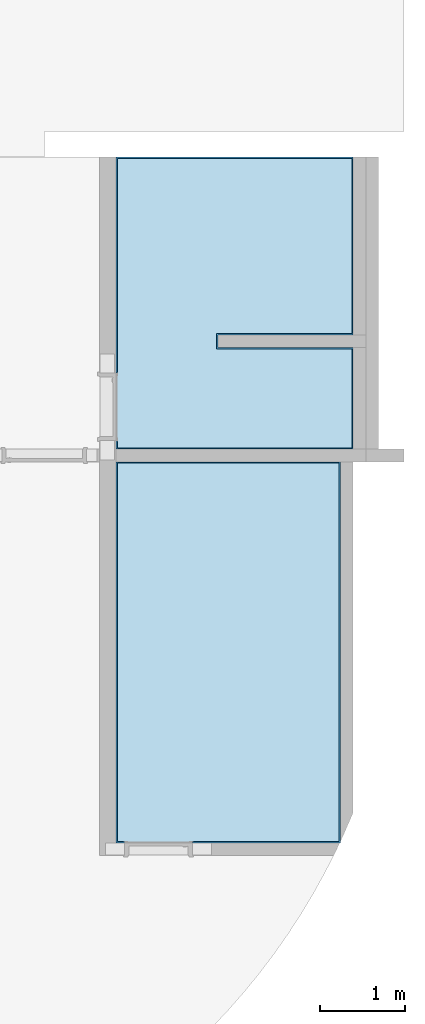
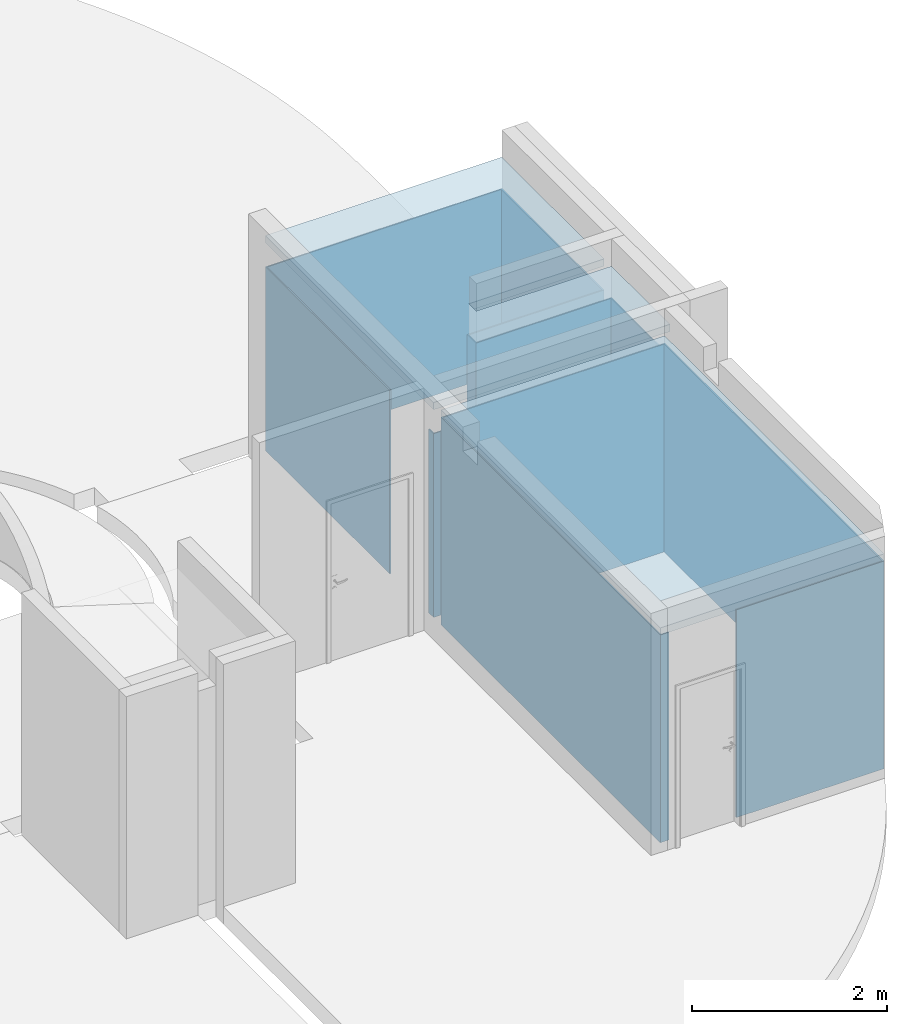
# One storey, part 9 of 21: 4 slabs.
"""IFC4 building model written with IfcOpenShell, lengths in millimetres."""

from ifc_helpers import new_model, entity, si_unit, converted_unit, derived_unit, direction, frame, origin_with_axes, place, context, subcontext, project, spatial, polygons, material, constituent, constituent_set, type_object, element, save


model = new_model("IFC4")

# Units and contexts
model_context = context("Model", 3, precision=0.01, world=origin_with_axes(), true_north=direction((0.0, 1.0)))
body_context = subcontext(model_context, "Body", "Model", "MODEL_VIEW")
ifc_project = project(units=[si_unit("LENGTHUNIT", "METRE", prefix="MILLI"), si_unit("AREAUNIT", "SQUARE_METRE"), si_unit("VOLUMEUNIT", "CUBIC_METRE"), converted_unit("PLANEANGLEUNIT", "DEGREE", entity("IfcPlaneAngleMeasure", 0.0174532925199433), si_unit("PLANEANGLEUNIT", "RADIAN"), dimensions=[0, 0, 0, 0, 0, 0, 0]), converted_unit("TIMEUNIT", "Year", entity("IfcTimeMeasure", 31557600.0), si_unit("TIMEUNIT", "SECOND"), dimensions=[0, 0, 1, 0, 0, 0, 0]), si_unit("MASSUNIT", "GRAM", prefix="KILO"), si_unit("THERMODYNAMICTEMPERATUREUNIT", "DEGREE_CELSIUS"), si_unit("LUMINOUSINTENSITYUNIT", "LUMEN"), si_unit("ENERGYUNIT", "JOULE", prefix="MEGA"), derived_unit("THERMALCONDUCTANCEUNIT", [(si_unit("POWERUNIT", "WATT"), 1), (si_unit("LENGTHUNIT", "METRE"), -1), (si_unit("THERMODYNAMICTEMPERATUREUNIT", "KELVIN"), -1)]), derived_unit("SPECIFICHEATCAPACITYUNIT", [(si_unit("ENERGYUNIT", "JOULE"), 1), (si_unit("MASSUNIT", "GRAM", prefix="KILO"), -1), (si_unit("THERMODYNAMICTEMPERATUREUNIT", "KELVIN"), -1)]), derived_unit("MASSDENSITYUNIT", [(si_unit("MASSUNIT", "GRAM", prefix="KILO"), 1), (si_unit("VOLUMEUNIT", "CUBIC_METRE"), -1)])], contexts=[model_context])

# Site, building, storey
site_placement = place(None, origin_with_axes())
site = spatial("IfcSite", under=ifc_project, at=site_placement, Name="Exteriér", CompositionType="ELEMENT")
building_placement = place(site_placement, origin_with_axes())
building = spatial("IfcBuilding", under=site, at=building_placement, Name="Univerzitní lezecké centrum", CompositionType="ELEMENT")
storey_placement = place(building_placement, frame((0.0, 0.0, -3350.0), z_axis=(0.0, 0.0, 1.0), x_axis=(1.0, 0.0, 0.0)))
storey = spatial("IfcBuildingStorey", under=building, at=storey_placement, Name="1.PP", CompositionType="ELEMENT", Elevation=-3350.0)

# Slabs
ifc_material_1 = material(Name="Keramická dlažba 20x40 - obklad")
slab_type_1 = type_object("IfcSlabType", Name="Keramická dlažba 20x40 - obklad 2300", PredefinedType="FLOOR")
slab_1_placement = place(storey_placement, frame((9849.694468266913, 949.5770778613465, 2300.0), z_axis=(0.0, 0.0, 1.0), x_axis=(1.0, 0.0, 0.0)))
element("IfcSlab", 1, at=slab_1_placement, inside=storey, type_object=slab_type_1, material=ifc_material_1, PredefinedType="FLOOR", context=body_context, shape_type="Tessellation", body=[
    polygons([(0.0, 0.0, 0.0), (0.0, 0.0, -2300.0), (0.06858181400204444, 1199.984552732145, -2300.0), (0.06858181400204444, 1199.984552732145, 0.0), (-2799.739487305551, 0.1600114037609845, 0.0), (-2799.739487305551, 0.1600114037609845, -2300.0), (-2799.733772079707, 100.1600307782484, -2300.0), (-2784.733740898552, 100.1591734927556, -2300.0), (-2784.738598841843, 15.15913389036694, -2300.0), (-2724.738628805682, 15.14763353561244, -2300.0), (-15.17201160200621, 14.99277571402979, -2300.0), (-15.10514389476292, 1184.985388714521, -2300.0), (-1614.909071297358, 1185.07682110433, -2300.0), (-1614.898783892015, 1365.076835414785, -2300.0), (-15.09480508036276, 1364.985403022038, -2300.0), (-14.97650034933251, 3434.978036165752, -2300.0), (-2784.773092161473, 3435.136336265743, -2300.0), (-2784.917971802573, 900.1591874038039, -2300.0), (-2799.687998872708, 900.1600315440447, -2300.0), (-2799.542260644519, 3450.159985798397, -2300.0), (0.1971752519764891, 3449.999974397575, -2300.0), (0.0771546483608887, 1349.984504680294, -2300.0), (-1599.899661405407, 1350.075946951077, -2300.0), (-1599.908234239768, 1200.075995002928, -2300.0), (-1599.908234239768, 1200.075995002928, 0.0), (-1599.899661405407, 1350.075946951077, 0.0), (0.0771546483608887, 1349.984504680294, 0.0), (0.1971752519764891, 3449.999974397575, 0.0), (-2799.542260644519, 3450.159985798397, 0.0), (-2799.687998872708, 900.1600315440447, 0.0), (-2784.917971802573, 900.1591874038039, 0.0), (-2784.773092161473, 3435.136336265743, 0.0), (-14.97650034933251, 3434.978036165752, 0.0), (-15.09480508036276, 1364.985403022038, 0.0), (-1614.898783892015, 1365.076835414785, 0.0), (-1614.909071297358, 1185.07682110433, 0.0), (-15.10514389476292, 1184.985388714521, 0.0), (-15.17201160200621, 14.99277571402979, 0.0), (-2724.738628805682, 15.14763353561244, 0.0), (-2784.738598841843, 15.15913389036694, 0.0), (-2784.733740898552, 100.1591734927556, 0.0), (-2799.733772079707, 100.1600307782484, 0.0)], [[[1, 2, 3, 4]], [[5, 6, 2, 1]], [[3, 2, 6, 7, 8, 9, 10, 11, 12, 13, 14, 15, 16, 17, 18, 19, 20, 21, 22, 23, 24]], [[4, 3, 24, 25]], [[1, 4, 25, 26, 27, 28, 29, 30, 31, 32, 33, 34, 35, 36, 37, 38, 39, 40, 41, 42, 5]], [[42, 7, 6, 5]], [[41, 8, 7, 42]], [[40, 9, 8, 41]], [[39, 10, 9, 40]], [[38, 11, 10, 39]], [[37, 12, 11, 38]], [[36, 13, 12, 37]], [[35, 14, 13, 36]], [[34, 15, 14, 35]], [[33, 16, 15, 34]], [[32, 17, 16, 33]], [[31, 18, 17, 32]], [[30, 19, 18, 31]], [[29, 20, 19, 30]], [[28, 21, 20, 29]], [[27, 22, 21, 28]], [[26, 23, 22, 27]], [[25, 24, 23, 26]]], closed=True),
])
ifc_material_2 = material(Name="SDK - UA profil nosný 50")
ifc_constituent_1 = constituent(ifc_material_2, Name="SDK - UA profil nosný 50")
ifc_material_3 = material(Name="SDK - R-CD profil montážní")
ifc_constituent_2 = constituent(ifc_material_3, Name="SDK - R-CD profil montážní")
ifc_material_4 = material(Name="Sádrokarton - voděodolný")
ifc_constituent_3 = constituent(ifc_material_4, Name="Sádrokarton - voděodolný")
ifc_constituent_set_1 = constituent_set(constituents=[ifc_constituent_1, ifc_constituent_2, ifc_constituent_3], Name="!SDK - hygienický")
slab_type_2 = type_object("IfcSlabType", Name="!SDK - hygienický 90", PredefinedType="FLOOR")
slab_2_placement = place(storey_placement, frame((9849.851644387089, 4399.99999999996, 2690.0), z_axis=(0.0, 0.0, 1.0), x_axis=(1.0, 0.0, 0.0)))
element("IfcSlab", 2, at=slab_2_placement, inside=storey, type_object=slab_type_2, material=ifc_constituent_set_1, Name="Pdh01", PredefinedType="FLOOR", context=body_context, shape_type="Tessellation", body=[
    polygons([(-1597.101597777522, -2100.015008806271, 0.0), (0.0, -2099.768147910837, 0.0), (0.0, 0.0, 0.0), (-2799.739456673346, 0.0, 0.0), (-2799.739456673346, -3450.000000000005, 0.0), (0.0, -3450.000000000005, 0.0), (0.0, -2250.015438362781, 0.0), (-1599.976789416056, -2250.01545501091, 0.0), (-1599.999974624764, -2100.015456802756, 0.0), (-1599.976776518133, -2100.01545321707, 0.0), (-1599.976776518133, -2099.744970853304, 0.0), (0.0, -2099.768147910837, -50.00000000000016), (-1597.101597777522, -2100.015008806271, -50.00000000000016), (0.0, 0.0, -50.00000000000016), (-2799.739456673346, 0.0, -50.00000000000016), (-2799.739456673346, -3450.000000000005, -50.00000000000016), (0.0, -3450.000000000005, -50.00000000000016), (0.0, -2250.015438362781, -50.00000000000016), (-1599.976789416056, -2250.01545501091, -50.00000000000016), (-1599.999974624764, -2100.015456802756, -49.99999999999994), (-1599.976776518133, -2100.01545321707, -50.00000000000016), (-1599.976776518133, -2099.744970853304, -50.00000000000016)], [[[1, 2, 3, 4, 5, 6, 7, 8, 9, 10, 11]], [[12, 2, 1, 13]], [[2, 12, 14, 3]], [[14, 15, 4, 3]], [[15, 16, 5, 4]], [[16, 17, 6, 5]], [[17, 18, 7, 6]], [[19, 8, 7, 18]], [[9, 8, 19, 20]], [[21, 10, 9, 20]], [[10, 21, 22, 11]], [[13, 1, 11, 22]], [[12, 13, 22, 21, 20, 19, 18, 17, 16, 15, 14]]], closed=True),
    polygons([(0.0, -2249.768149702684, -50.00000000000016), (0.0, -2249.768149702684, 0.0), (0.0, -2250.015438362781, 0.0), (0.0, -2250.015438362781, -50.00000000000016), (-2.628633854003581, -2249.768556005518, 0.0), (-2.628633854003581, -2249.768556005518, -50.00000000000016)], [[[1, 2, 3, 4]], [[5, 2, 1, 6]], [[2, 5, 3]], [[5, 6, 4, 3]], [[6, 1, 4]]], closed=True),
    polygons([(-1597.101597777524, -2100.015008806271, -50.00000000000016), (0.0, -2099.768147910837, -50.00000000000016), (0.0, 0.0, -50.00000000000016), (-2799.739456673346, 0.0, -50.00000000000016), (-2799.739456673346, -3450.000000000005, -50.00000000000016), (0.0, -3450.000000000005, -50.00000000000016), (0.0, -2250.015438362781, -50.00000000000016), (-1599.976789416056, -2250.01545501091, -50.00000000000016), (-1599.999974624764, -2100.015456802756, -49.99999999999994), (-1599.976776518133, -2100.01545321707, -50.00000000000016), (-1599.976776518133, -2099.744970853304, -50.00000000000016), (0.0, -2099.768147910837, -77.00000000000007), (-1597.101597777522, -2100.015008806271, -77.00000000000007), (0.0, 0.0, -77.00000000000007), (-2799.739456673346, 0.0, -77.00000000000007), (-2799.739456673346, -3450.000000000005, -77.00000000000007), (0.0, -3450.000000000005, -77.00000000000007), (0.0, -2250.015438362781, -77.00000000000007), (-1599.976789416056, -2250.01545501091, -77.00000000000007), (-1599.999974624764, -2100.015456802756, -77.00000000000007), (-1599.976776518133, -2100.01545321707, -77.00000000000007), (-1599.976776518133, -2099.744970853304, -77.00000000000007)], [[[1, 2, 3, 4, 5, 6, 7, 8, 9, 10, 11]], [[12, 2, 1, 13]], [[2, 12, 14, 3]], [[14, 15, 4, 3]], [[15, 16, 5, 4]], [[16, 17, 6, 5]], [[17, 18, 7, 6]], [[19, 8, 7, 18]], [[9, 8, 19, 20]], [[21, 10, 9, 20]], [[10, 21, 22, 11]], [[13, 1, 11, 22]], [[12, 13, 22, 21, 20, 19, 18, 17, 16, 15, 14]]], closed=True),
    polygons([(0.0, -2249.768149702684, -77.00000000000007), (0.0, -2249.768149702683, -50.00000000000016), (0.0, -2250.015438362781, -50.00000000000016), (0.0, -2250.015438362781, -77.00000000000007), (-2.628633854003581, -2249.768556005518, -50.00000000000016), (-2.628633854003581, -2249.768556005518, -77.00000000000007)], [[[1, 2, 3, 4]], [[5, 2, 1, 6]], [[2, 5, 3]], [[5, 6, 4, 3]], [[6, 1, 4]]], closed=True),
    polygons([(-1597.101597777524, -2100.015008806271, -77.00000000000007), (0.0, -2099.768147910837, -77.00000000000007), (0.0, 0.0, -77.00000000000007), (-2799.739456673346, 0.0, -77.00000000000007), (-2799.739456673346, -3450.000000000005, -77.00000000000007), (0.0, -3450.000000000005, -77.00000000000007), (0.0, -2250.015438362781, -77.00000000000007), (-1599.976789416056, -2250.01545501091, -77.00000000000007), (-1599.999974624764, -2100.015456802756, -77.00000000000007), (-1599.976776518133, -2100.01545321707, -77.00000000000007), (-1599.976776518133, -2099.744970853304, -77.00000000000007), (0.0, -2099.768147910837, -89.99999999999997), (-1597.101597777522, -2100.015008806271, -89.99999999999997), (0.0, 0.0, -89.99999999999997), (-2799.739456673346, 0.0, -89.99999999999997), (-2799.739456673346, -3450.000000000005, -89.99999999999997), (0.0, -3450.000000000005, -89.99999999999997), (0.0, -2250.015438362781, -89.99999999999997), (-1599.976789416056, -2250.01545501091, -89.99999999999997), (-1599.999974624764, -2100.015456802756, -89.99999999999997), (-1599.976776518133, -2100.01545321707, -89.99999999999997), (-1599.976776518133, -2099.744970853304, -89.99999999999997)], [[[1, 2, 3, 4, 5, 6, 7, 8, 9, 10, 11]], [[12, 2, 1, 13]], [[2, 12, 14, 3]], [[3, 14, 15, 4]], [[4, 15, 16, 5]], [[5, 16, 17, 6]], [[6, 17, 18, 7]], [[19, 8, 7, 18]], [[9, 8, 19, 20]], [[21, 10, 9, 20]], [[10, 21, 22, 11]], [[13, 1, 11, 22]], [[12, 13, 22, 21, 20, 19, 18, 17, 16, 15, 14]]], closed=True),
    polygons([(0.0, -2249.768149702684, -89.99999999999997), (0.0, -2249.768149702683, -77.00000000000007), (0.0, -2250.015438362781, -77.00000000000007), (0.0, -2250.015438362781, -89.99999999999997), (-2.628633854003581, -2249.768556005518, -77.00000000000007), (-2.628633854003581, -2249.768556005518, -89.99999999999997)], [[[1, 2, 3, 4]], [[5, 2, 1, 6]], [[2, 5, 3]], [[5, 6, 4, 3]], [[6, 1, 4]]], closed=True),
])
ifc_constituent_4 = constituent(ifc_material_2, Name="SDK - UA profil nosný 50")
ifc_constituent_5 = constituent(ifc_material_3, Name="SDK - R-CD profil montážní")
ifc_constituent_6 = constituent(ifc_material_4, Name="Sádrokarton - voděodolný")
ifc_constituent_set_2 = constituent_set(constituents=[ifc_constituent_4, ifc_constituent_5, ifc_constituent_6], Name="!SDK - hygienický")
slab_3_placement = place(storey_placement, frame((9699.851648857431, -3700.000000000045, 2690.0), z_axis=(0.0, 0.0, 1.0), x_axis=(1.0, 0.0, 0.0)))
element("IfcSlab", 3, at=slab_3_placement, inside=storey, type_object=slab_type_2, material=ifc_constituent_set_2, Name="Pdh01", PredefinedType="FLOOR", context=body_context, shape_type="Tessellation", body=[
    polygons([(-8.352607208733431, 0.0, 0.0), (0.0, 17.57176482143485, 0.0), (0.0, 4500.0, 0.0), (-2649.739482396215, 4500.000000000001, 0.0), (-2649.739482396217, 0.0, 0.0), (0.0, 17.57176482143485, -50.00000000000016), (-8.352607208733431, 0.0, -50.00000000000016), (0.0, 4500.0, -50.00000000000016), (-2649.739482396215, 4500.000000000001, -50.00000000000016), (-2649.739482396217, 0.0, -50.00000000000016)], [[[1, 2, 3, 4, 5]], [[6, 2, 1, 7]], [[2, 6, 8, 3]], [[8, 9, 4, 3]], [[9, 10, 5, 4]], [[7, 1, 5, 10]], [[6, 7, 10, 9, 8]]], closed=True),
    polygons([(-8.352607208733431, 0.0, -50.00000000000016), (0.0, 17.57176482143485, -50.00000000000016), (0.0, 4500.0, -50.00000000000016), (-2649.739482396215, 4500.000000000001, -50.00000000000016), (-2649.739482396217, 0.0, -50.00000000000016), (0.0, 17.57176482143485, -77.00000000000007), (-8.352607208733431, 0.0, -77.00000000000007), (0.0, 4500.0, -77.00000000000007), (-2649.739482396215, 4500.000000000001, -77.00000000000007), (-2649.739482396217, 0.0, -77.00000000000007)], [[[1, 2, 3, 4, 5]], [[6, 2, 1, 7]], [[2, 6, 8, 3]], [[8, 9, 4, 3]], [[9, 10, 5, 4]], [[7, 1, 5, 10]], [[6, 7, 10, 9, 8]]], closed=True),
    polygons([(-8.352607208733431, 0.0, -77.00000000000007), (0.0, 17.57176482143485, -77.00000000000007), (0.0, 4500.0, -77.00000000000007), (-2649.739482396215, 4500.000000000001, -77.00000000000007), (-2649.739482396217, 0.0, -77.00000000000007), (0.0, 17.57176482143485, -89.99999999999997), (-8.352607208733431, 0.0, -89.99999999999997), (0.0, 4500.0, -89.99999999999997), (-2649.739482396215, 4500.000000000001, -89.99999999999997), (-2649.739482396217, 0.0, -89.99999999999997)], [[[1, 2, 3, 4, 5]], [[6, 2, 1, 7]], [[2, 6, 8, 3]], [[3, 8, 9, 4]], [[4, 9, 10, 5]], [[7, 1, 5, 10]], [[6, 7, 10, 9, 8]]], closed=True),
])
slab_type_3 = type_object("IfcSlabType", Name="Keramická dlažba 20x40 - obklad 2600", PredefinedType="FLOOR")
slab_4_placement = place(storey_placement, frame((9699.428710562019, -3700.414341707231, 2600.0), z_axis=(0.0, 0.0, 1.0), x_axis=(1.0, 0.0, 0.0)))
element("IfcSlab", 4, at=slab_4_placement, inside=storey, type_object=slab_type_3, material=ifc_material_1, PredefinedType="FLOOR", context=body_context, shape_type="Tessellation", body=[
    polygons([(0.0, 0.0, 0.0), (0.0, 0.0, -2600.0), (0.2571851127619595, 4499.999992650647, -2600.0), (0.2571851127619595, 4499.999992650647, 0.0), (-1748.213331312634, 0.09991432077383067, 0.0), (-1748.213331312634, 0.09991432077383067, -2600.0), (-1748.212474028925, 15.09991429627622, -2600.0), (-14.99914269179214, 15.00085725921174, -2600.0), (-14.74367214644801, 4485.000849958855, -2600.0), (-2634.483180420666, 4485.150573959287, -2600.0), (-2634.73865096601, 15.15058125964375, -2600.0), (-2548.21245037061, 15.14563609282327, -2600.0), (-2548.21330765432, 0.1456361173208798, -2600.0), (-2649.739508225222, 0.1514385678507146, -2600.0), (-2649.482323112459, 4500.151431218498, -2600.0), (-2649.482323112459, 4500.151431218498, 0.0), (-2649.739508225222, 0.1514385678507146, 0.0), (-2548.21330765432, 0.1456361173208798, 0.0), (-2548.21245037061, 15.14563609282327, 0.0), (-2634.73865096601, 15.15058125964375, 0.0), (-2634.483180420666, 4485.150573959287, 0.0), (-14.74367214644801, 4485.000849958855, 0.0), (-14.99914269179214, 15.00085725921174, 0.0), (-1748.212474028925, 15.09991429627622, 0.0)], [[[1, 2, 3, 4]], [[5, 6, 2, 1]], [[3, 2, 6, 7, 8, 9, 10, 11, 12, 13, 14, 15]], [[4, 3, 15, 16]], [[5, 1, 4, 16, 17, 18, 19, 20, 21, 22, 23, 24]], [[24, 7, 6, 5]], [[23, 8, 7, 24]], [[22, 9, 8, 23]], [[21, 10, 9, 22]], [[20, 11, 10, 21]], [[19, 12, 11, 20]], [[18, 13, 12, 19]], [[17, 14, 13, 18]], [[16, 15, 14, 17]]], closed=True),
])

save(model, "model.ifc")
